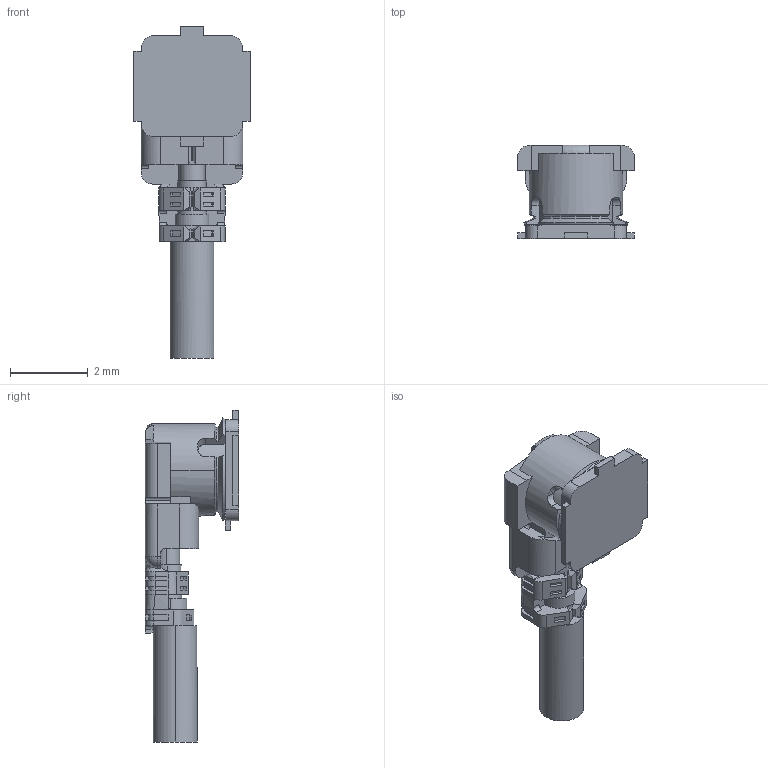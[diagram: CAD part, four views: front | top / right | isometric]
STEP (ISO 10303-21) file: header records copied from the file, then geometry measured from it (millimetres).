
FILE_DESCRIPTION (( 'STEP AP203' ), '1' );
FILE_NAME ('20278-1xxR-13+20279-001E-xxC R15R9 STEP ALL.STEP', '2018-08-06T00:21:02', ( '' ), ( '' ), 'SwSTEP 2.0', 'SolidWorks 2017', '' );
FILE_SCHEMA (( 'CONFIG_CONTROL_DESIGN' ));
Length unit declared in the file: millimetre
Products named in the file (1): 20278-1xxR-13+20279-001E-xxC R15R9 STEP ALL
Bounding box: 3 x 2.4 x 8.55 mm (x, y, z)
Volume: 21.4 mm3; surface area: 76 mm2
Topology: 1 solids, 1 shells, 386 faces, 1055 edges, 676 vertices
Faces by surface type: plane 233, cylinder 91, bspline 37, cone 18, torus 5, sphere 2
Entity records: 13597 total; most frequent: CARTESIAN_POINT 3988, ORIENTED_EDGE 2102, DIRECTION 1832, EDGE_CURVE 1051, VECTOR 700, LINE 700, VERTEX_POINT 676, AXIS2_PLACEMENT_3D 566
